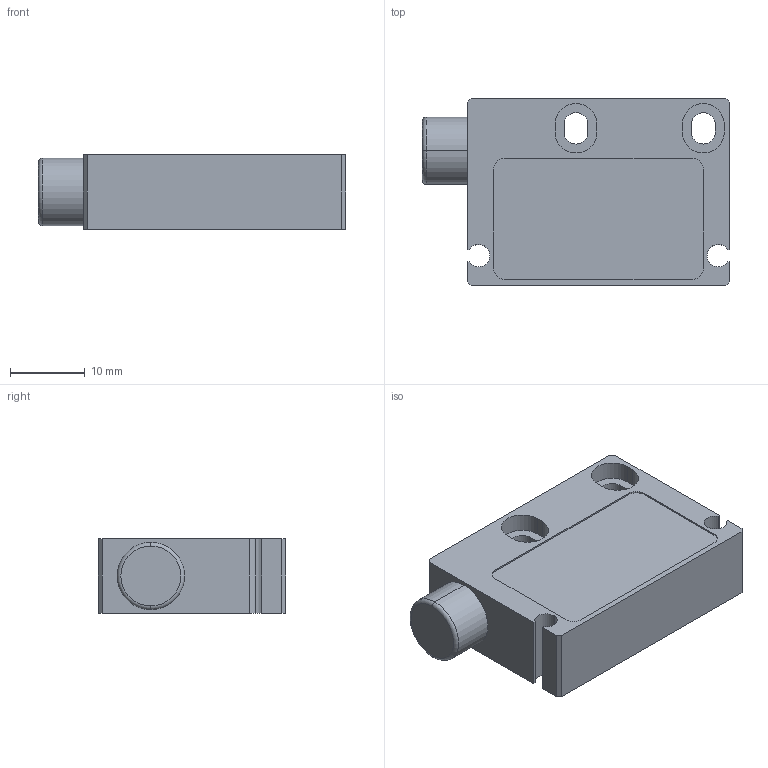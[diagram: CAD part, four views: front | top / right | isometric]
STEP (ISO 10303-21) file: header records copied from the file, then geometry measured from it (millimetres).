
FILE_DESCRIPTION (( 'STEP AP203' ), '1' );
FILE_NAME ('5000黍芛3D芞祧.STEP', '2018-06-01T02:41:05', ( 'xt256.com' ), ( 'xt256.com' ), 'SwSTEP 2.0', 'SolidWorks 2012', '' );
FILE_SCHEMA (( 'CONFIG_CONTROL_DESIGN' ));
Length unit declared in the file: millimetre
Products named in the file (1): 5000黍芛3D芞祧
Bounding box: 41 x 25 x 10 mm (x, y, z)
Volume: 8571.3 mm3; surface area: 3454.9 mm2
Topology: 1 solids, 1 shells, 51 faces, 133 edges, 88 vertices
Faces by surface type: plane 32, cylinder 17, torus 2
Entity records: 1654 total; most frequent: DIRECTION 275, CARTESIAN_POINT 273, ORIENTED_EDGE 266, EDGE_CURVE 133, LINE 95, VECTOR 95, AXIS2_PLACEMENT_3D 90, VERTEX_POINT 88
